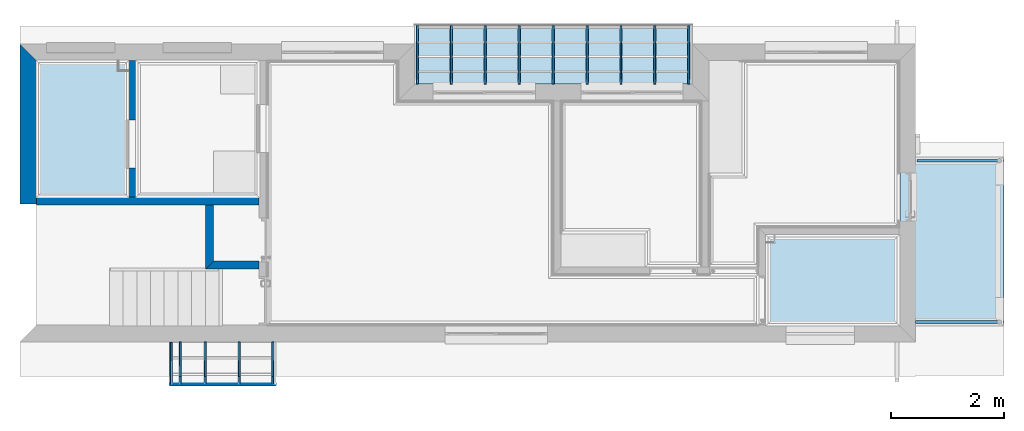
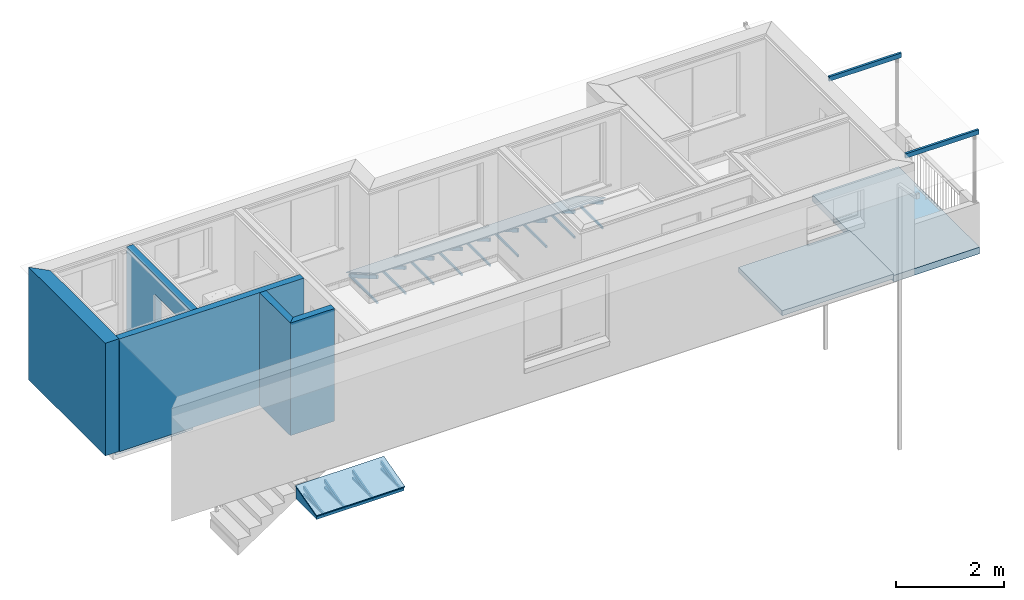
# One storey, part 1 of 18: 31 slabs, 6 walls, 3 beams.
"""IFC2X3 building model written with IfcOpenShell, lengths in millimetres."""

from ifc_helpers import new_model, entity, si_unit, converted_unit, money_unit, direction, frame, origin_with_axes, place, context, subcontext, project, spatial, polyline, outline, extrude, clip, halfspace, faceted_brep, source, transform, mapped, material, material_list, layer, layer_set, layer_usage, type_object, element, save


model = new_model("IFC2X3")

# Units and contexts
model_context = context("Model", 3, precision=1e-05, world=origin_with_axes(), true_north=direction((0.0, 1.0)))
body_context = subcontext(model_context, "Body", "Model", "MODEL_VIEW")
ifc_project = project(units=[si_unit("LENGTHUNIT", "METRE", prefix="MILLI"), si_unit("AREAUNIT", "SQUARE_METRE"), si_unit("VOLUMEUNIT", "CUBIC_METRE"), converted_unit("PLANEANGLEUNIT", "DEGREE", entity("IfcPlaneAngleMeasure", 0.0174532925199), si_unit("PLANEANGLEUNIT", "RADIAN"), dimensions=[0, 0, 0, 0, 0, 0, 0]), si_unit("SOLIDANGLEUNIT", "STERADIAN"), money_unit("AUD"), si_unit("TIMEUNIT", "SECOND"), si_unit("MASSUNIT", "GRAM"), si_unit("THERMODYNAMICTEMPERATUREUNIT", "DEGREE_CELSIUS"), si_unit("LUMINOUSINTENSITYUNIT", "LUMEN")], contexts=[model_context])

# Site, building, storey
site_placement = place(None, origin_with_axes())
site = spatial("IfcSite", under=ifc_project, at=site_placement, Name="Lot 1. East Hills", CompositionType="ELEMENT")
building_placement = place(site_placement, origin_with_axes())
building = spatial("IfcBuilding", under=site, at=building_placement, Name="Proposed Units 7 & 8", CompositionType="ELEMENT")
storey_placement = place(building_placement, frame((0.0, 0.0, 5859.0), z_axis=(0.0, 0.0, 1.0), x_axis=(1.0, 0.0, 0.0)))
storey = spatial("IfcBuildingStorey", under=building, at=storey_placement, Name="Level 1", CompositionType="ELEMENT", Elevation=5859.0)

# Beams
ifc_material_1 = material(Name="50 %")
beam_type_1 = type_object("IfcBeamType", Name="Purlin 12", PredefinedType="NOTDEFINED")
shared_shape_1 = source(origin_with_axes(), body_context, "Body", "Brep", [
    faceted_brep([(0.0, -7.5, 105.0), (-1865.0, -7.5, 105.0), (-1865.0, -7.5, 0.0), (0.0, -7.5, 0.0), (0.0, 7.5, 105.0), (-1865.0, 7.5, 105.0), (-1865.0, 7.5, 0.0), (0.0, 7.5, 0.0)], [[[0, 1, 2, 3]], [[4, 5, 1, 0]], [[1, 5, 6, 2]], [[3, 2, 6, 7]], [[0, 3, 7, 4]], [[7, 6, 5, 4]]]),
])
beam_1_placement = place(storey_placement, frame((2657.41720971, -751.424784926, -427.675500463), z_axis=(0.0, 0.0, 1.0), x_axis=(-1.0, 0.0, 0.0)))
element("IfcBeam", 1, at=beam_1_placement, inside=storey, type_object=beam_type_1, material=ifc_material_1, Name="ROOF_BAT_29 - Purlin 12 - object -", ObjectType="Purlin 12", context=body_context, shape_type="MappedRepresentation", body=[
    mapped(shared_shape_1, transform((0.0, 0.0, 0.0))),
])
ifc_material_2 = material(Name="Concrete Reinforced")
beam_type_2 = type_object("IfcBeamType", Name="Concrete Reinforced 50 x 104", PredefinedType="NOTDEFINED")
beam_2_placement = place(storey_placement, frame((17394.0103075, 3200.22809026, 2536.0), z_axis=(0.0, 0.0, 1.0), x_axis=(0.0, 1.0, 0.0)))
element("IfcBeam", 2, at=beam_2_placement, inside=storey, type_object=beam_type_2, material=ifc_material_2, Name="FOOTING TYPE B - Concrete Reinforced - Beam*****TYPE*****TYPE*****B*****TYPE B*****FOOTING TYPE*****FOOTING", ObjectType="Concrete Reinforced 50 x 104", context=body_context, shape_type="Brep", body=[
    faceted_brep([(25.0, 1544.01030755, -104.0), (25.0, 1544.01030755, 0.0), (25.0, 3.33085941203, 0.0), (25.0, 3.33085941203, -104.0), (-25.0, 1544.01030755, 0.0), (-25.0, 1544.01030755, -104.0), (-25.0, 3.33085941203, 0.0), (-25.0, 3.33085941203, -104.0)], [[[0, 1, 2, 3]], [[4, 1, 0, 5]], [[1, 4, 6, 2]], [[3, 2, 6, 7]], [[5, 0, 3, 7]], [[4, 5, 7, 6]]]),
])
beam_3_placement = place(storey_placement, frame((17394.1513236, 350.000032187, 2536.0), z_axis=(0.0, 0.0, 1.0), x_axis=(0.0, 1.0, 0.0)))
element("IfcBeam", 3, at=beam_3_placement, inside=storey, type_object=beam_type_2, material=ifc_material_2, Name="FOOTING TYPE B - Concrete Reinforced - Beam*****TYPE*****TYPE*****B*****TYPE B*****FOOTING TYPE*****FOOTING", ObjectType="Concrete Reinforced 50 x 104", context=body_context, shape_type="Brep", body=[
    faceted_brep([(-25.0, 3.47187543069, 0.0), (25.0, 3.47187543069, 0.0), (25.0, 1564.15132357, 0.0), (-25.0, 1564.15132357, 0.0), (25.0, 3.47187543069, -103.797689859), (-25.0, 3.47187543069, -103.797689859), (25.0, 1564.15132357, -103.797689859), (-25.0, 1564.15132357, -103.797689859)], [[[0, 1, 2, 3]], [[4, 1, 0, 5]], [[1, 4, 6, 2]], [[7, 3, 2, 6]], [[5, 0, 3, 7]], [[4, 5, 7, 6]]]),
])

# Slabs
ifc_layer_1 = layer(ifc_material_2, 110.0, ventilated="UNKNOWN")
ifc_layer_set_1 = layer_set([ifc_layer_1], Name="Concrete Reinforced 110")
ifc_layer_usage_1 = layer_usage(ifc_layer_set_1, "AXIS3", "NEGATIVE", 110.0)
slab_type_1 = type_object("IfcSlabType", Name="Concrete Reinforced 110", PredefinedType="FLOOR")
slab_1_placement = place(storey_placement, frame((279.999999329, 4983.00000067, -40.0), z_axis=(0.0, 0.0, 1.0), x_axis=(1.0, 0.0, 0.0)))
element("IfcSlab", 4, at=slab_1_placement, inside=storey, type_object=slab_type_1, material=ifc_layer_usage_1, Name="Slab002 Concrete Reinforced Slab", PredefinedType="FLOOR", context=body_context, shape_type="SweptSolid", body=[
    extrude(outline(polyline([(0.0, 0.0), (0.0, -2440.0), (1650.00000067, -2440.0), (1650.00000067, 0.0), (0.0, 0.0)])), frame((0.0, 0.0, -110.0), z_axis=(0.0, 0.0, 1.0), x_axis=(1.0, 0.0, 0.0)), (0.0, 0.0, 1.0), 110.0),
])
ifc_layer_usage_2 = layer_usage(ifc_layer_set_1, "AXIS3", "NEGATIVE", 110.0)
slab_2_placement = place(storey_placement, frame((13175.0000004, 1897.99999873, -40.0), z_axis=(0.0, 0.0, 1.0), x_axis=(1.0, 0.0, 0.0)))
element("IfcSlab", 5, at=slab_2_placement, inside=storey, type_object=slab_type_1, material=ifc_layer_usage_2, Name="Slab002 Concrete Reinforced Slab", PredefinedType="FLOOR", context=body_context, shape_type="SweptSolid", body=[
    extrude(outline(polyline([(0.0, 0.0), (0.0, -1620.01525367), (2375.00000032, -1620.01525367), (2375.00000032, 0.0), (0.0, 0.0)])), frame((0.0, 0.0, -110.0), z_axis=(0.0, 0.0, 1.0), x_axis=(1.0, 0.0, 0.0)), (0.0, 0.0, 1.0), 110.0),
])
slab_type_2 = type_object("IfcSlabType", Name="Purlin 12", PredefinedType="NOTDEFINED")
shared_shape_2 = source(origin_with_axes(), body_context, "Body", "Brep", [
    faceted_brep([(0.0, -17.5, 50.0), (0.0, -17.5, 0.0), (1035.73573739, -17.5, 0.0), (1035.73573739, -17.5, 50.0), (0.0, 17.5, 50.0), (0.0, 17.5, 0.0), (1035.73573739, 17.5, 0.0), (1035.73573739, 17.5, 50.0)], [[[0, 1, 2, 3]], [[0, 4, 5, 1]], [[1, 5, 6, 2]], [[3, 2, 6, 7]], [[4, 0, 3, 7]], [[5, 4, 7, 6]]]),
])
for number, where, z_axis, x_axis, name in (
    (6, (7622.5, 4553.0, -318.797689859), (0.0, 0.0, 1.0), (0.0, 1.0, 0.0), "ROOF_BAT_27 - Purlin 12 - object -"),
    (7, (8222.5, 4553.0, -318.797689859), (0.0, 0.0, 1.0), (0.0, 1.0, 0.0), "ROOF_BAT_26 - Purlin 12 - object -"),
    (8, (8822.5, 4553.0, -318.797689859), (0.0, 0.0, 1.0), (0.0, 1.0, 0.0), "ROOF_BAT_25 - Purlin 12 - object -"),
    (9, (9422.5, 4553.0, -318.797689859), (0.0, 0.0, 1.0), (0.0, 1.0, 0.0), "ROOF_BAT_24 - Purlin 12 - object -"),
    (10, (10022.5, 4553.0, -318.797689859), (0.0, 0.0, 1.0), (0.0, 1.0, 0.0), "ROOF_BAT_23 - Purlin 12 - object -"),
    (11, (10622.5, 4553.0, -318.797689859), (0.0, 0.0, 1.0), (0.0, 1.0, 0.0), "ROOF_BAT_22 - Purlin 12 - object -"),
    (12, (11222.5, 4553.0, -318.797689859), (0.0, 0.0, 1.0), (0.0, 1.0, 0.0), "ROOF_BAT_21 - Purlin 12 - object -"),
    (13, (11822.5, 4553.0, -318.797689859), (0.0, 0.0, 1.0), (0.0, 1.0, 0.0), "ROOF_BAT_08 - Purlin 12 - object -"),
    (14, (7022.5, 4553.0, -318.797689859), (0.0, 0.0, 1.0), (0.0, 1.0, 0.0), "ROOF_BAT_27 - Purlin 12 - object -"),
):
    element("IfcSlab", number, at=place(storey_placement, frame(where, z_axis=z_axis, x_axis=x_axis)), inside=storey, type_object=slab_type_2, material=ifc_material_1, Name=name, PredefinedType="ROOF", context=body_context, shape_type="MappedRepresentation", body=[
        mapped(shared_shape_2, transform((0.0, 0.0, 0.0))),
    ])
slab_type_3 = type_object("IfcSlabType", Name="Strut 2 12", PredefinedType="NOTDEFINED")
shared_shape_3 = source(origin_with_axes(), body_context, "Body", "Brep", [
    faceted_brep([(0.0, 17.5, 0.0), (0.0, -17.5, 0.0), (-150.0, -17.5, 0.0), (-150.0, 17.5, 0.0), (-1035.73573739, 17.5, 597.982306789), (-1035.73573739, -17.5, 597.982306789), (-1035.73573739, -17.5, 511.37976641), (-1035.73573739, 17.5, 511.37976641)], [[[0, 1, 2, 3]], [[4, 5, 1, 0]], [[1, 5, 6, 2]], [[3, 2, 6, 7]], [[0, 3, 7, 4]], [[7, 6, 5, 4]]]),
])
for number, where, z_axis, x_axis, name in (
    (15, (11822.5, 5588.73573739, -268.797689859), (0.0, 0.0, 1.0), (0.0, 1.0, 0.0), "U7_FRIDGE - Strut 2 12 - object -"),
    (16, (11222.5, 5588.73573739, -268.797689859), (0.0, 0.0, 1.0), (0.0, 1.0, 0.0), "U7_FRIDGE - Strut 2 12 - object -"),
    (17, (10622.5, 5588.73573739, -268.797689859), (0.0, 0.0, 1.0), (0.0, 1.0, 0.0), "U7_FRIDGE - Strut 2 12 - object -"),
    (18, (10022.5, 5588.73573739, -268.797689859), (0.0, 0.0, 1.0), (0.0, 1.0, 0.0), "U7_FRIDGE - Strut 2 12 - object -"),
    (19, (9422.5, 5588.73573739, -268.797689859), (0.0, 0.0, 1.0), (0.0, 1.0, 0.0), "U7_FRIDGE - Strut 2 12 - object -"),
    (20, (8822.5, 5588.73573739, -268.797689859), (0.0, 0.0, 1.0), (0.0, 1.0, 0.0), "U7_FRIDGE - Strut 2 12 - object -"),
    (21, (8222.5, 5588.73573739, -268.797689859), (0.0, 0.0, 1.0), (0.0, 1.0, 0.0), "U7_FRIDGE - Strut 2 12 - object -"),
    (22, (7622.5, 5588.73573739, -268.797689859), (0.0, 0.0, 1.0), (0.0, 1.0, 0.0), "U7_FRIDGE - Strut 2 12 - object -"),
    (23, (7022.5, 5588.73573739, -268.797689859), (0.0, 0.0, 1.0), (0.0, 1.0, 0.0), "U7_FRIDGE - Strut 2 12 - object -"),
):
    element("IfcSlab", number, at=place(storey_placement, frame(where, z_axis=z_axis, x_axis=x_axis)), inside=storey, type_object=slab_type_3, material=ifc_material_1, Name=name, PredefinedType="ROOF", context=body_context, shape_type="MappedRepresentation", body=[
        mapped(shared_shape_3, transform((0.0, 0.0, 0.0))),
    ])
shared_shape_4 = source(origin_with_axes(), body_context, "Body", "Brep", [
    faceted_brep([(0.0, -17.5, 50.0), (-741.626512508, -17.5, 50.0), (-741.626512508, -17.5, 0.0), (0.0, -17.5, 0.0), (0.0, 17.5, 50.0), (-741.626512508, 17.5, 50.0), (-741.626512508, 17.5, 0.0), (0.0, 17.5, 0.0)], [[[0, 1, 2, 3]], [[4, 5, 1, 0]], [[1, 5, 6, 2]], [[3, 2, 6, 7]], [[0, 3, 7, 4]], [[7, 6, 5, 4]]]),
])
slab_3_placement = place(storey_placement, frame((4470.91720971, -2.00273477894, -404.797689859), z_axis=(0.0, 0.0, 1.0), x_axis=(0.0, 1.0, 0.0)))
element("IfcSlab", 24, at=slab_3_placement, inside=storey, type_object=slab_type_2, material=ifc_material_1, Name="ROOF_BAT_25 - Purlin 12 - object -", PredefinedType="ROOF", context=body_context, shape_type="MappedRepresentation", body=[
    mapped(shared_shape_4, transform((0.0, 0.0, 0.0))),
])
shared_shape_5 = source(origin_with_axes(), body_context, "Body", "Brep", [
    faceted_brep([(0.0, -17.5, 50.0), (-746.077104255, -17.5, 50.0), (-746.077104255, -17.5, 0.0), (0.0, -17.5, 0.0), (0.0, 17.5, 50.0), (-746.077104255, 17.5, 50.0), (-746.077104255, 17.5, 0.0), (0.0, 17.5, 0.0)], [[[0, 1, 2, 3]], [[4, 5, 1, 0]], [[1, 5, 6, 2]], [[3, 2, 6, 7]], [[0, 3, 7, 4]], [[7, 6, 5, 4]]]),
])
slab_4_placement = place(storey_placement, frame((3270.91720971, 1.50263977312, -404.797689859), z_axis=(0.0, 0.0, 1.0), x_axis=(0.0, 1.0, 0.0)))
element("IfcSlab", 25, at=slab_4_placement, inside=storey, type_object=slab_type_2, material=ifc_material_1, Name="ROOF_BAT_27 - Purlin 12 - object -", PredefinedType="ROOF", context=body_context, shape_type="MappedRepresentation", body=[
    mapped(shared_shape_5, transform((0.0, 0.0, 0.0))),
])
shared_shape_6 = source(origin_with_axes(), body_context, "Body", "Brep", [
    faceted_brep([(0.0, 17.5, 0.0), (289.777747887, 17.5, 0.0), (289.777747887, -17.5, 0.0), (0.0, -17.5, 0.0), (612.643593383, 17.5, 164.157356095), (612.643593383, 17.5, 86.5116425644), (612.643593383, -17.5, 86.5116425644), (612.643593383, -17.5, 164.157356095)], [[[0, 1, 2, 3]], [[0, 4, 5, 1]], [[1, 5, 6, 2]], [[3, 2, 6, 7]], [[4, 0, 3, 7]], [[5, 4, 7, 6]]]),
])
for number, where, z_axis, x_axis, name in (
    (26, (3870.91720971, -614.643593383, -354.797689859), (0.0, 0.0, 1.0), (0.0, 1.0, 0.0), "U7_FRIDGE - Strut 2 12 - object -"),
    (27, (3270.91720971, -614.643593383, -354.797689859), (0.0, 0.0, 1.0), (0.0, 1.0, 0.0), "U7_FRIDGE - Strut 2 12 - object -"),
    (28, (2830.31206946, -611.14095361, -354.797689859), (0.0, 0.0, 1.0), (0.0, 1.0, 0.0), "U7_FRIDGE - Strut 2 12 - object -"),
    (29, (4470.91720971, -614.643593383, -354.797689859), (0.0, 0.0, 1.0), (0.0, 1.0, 0.0), "U7_FRIDGE - Strut 2 12 - object -"),
):
    element("IfcSlab", number, at=place(storey_placement, frame(where, z_axis=z_axis, x_axis=x_axis)), inside=storey, type_object=slab_type_3, material=ifc_material_1, Name=name, PredefinedType="ROOF", context=body_context, shape_type="MappedRepresentation", body=[
        mapped(shared_shape_6, transform((0.0, 0.0, 0.0))),
    ])
shared_shape_7 = source(origin_with_axes(), body_context, "Body", "Brep", [
    faceted_brep([(0.0, -17.5, 50.0), (-752.927424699, -17.5, 50.0), (-752.927424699, -17.5, 0.0), (0.0, -17.5, 0.0), (0.0, 17.5, 50.0), (-752.927424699, 17.5, 50.0), (-752.927424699, 17.5, 0.0), (0.0, 17.5, 0.0)], [[[0, 1, 2, 3]], [[4, 5, 1, 0]], [[1, 5, 6, 2]], [[3, 2, 6, 7]], [[0, 3, 7, 4]], [[7, 6, 5, 4]]]),
])
slab_5_placement = place(storey_placement, frame((2830.31206946, 1.50263977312, -404.797689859), z_axis=(0.0, 0.0, 1.0), x_axis=(0.0, 1.0, 0.0)))
element("IfcSlab", 30, at=slab_5_placement, inside=storey, type_object=slab_type_2, material=ifc_material_1, Name="ROOF_BAT_27 - Purlin 12 - object -", PredefinedType="ROOF", context=body_context, shape_type="MappedRepresentation", body=[
    mapped(shared_shape_7, transform((0.0, 0.0, 0.0))),
])
shared_shape_8 = source(origin_with_axes(), body_context, "Body", "Brep", [
    faceted_brep([(0.0, -17.5, 50.0), (-752.927424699, -17.5, 50.0), (-752.927424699, -17.5, 0.0), (0.0, -17.5, 0.0), (0.0, 17.5, 50.0), (-752.927424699, 17.5, 50.0), (-752.927424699, 17.5, 0.0), (0.0, 17.5, 0.0)], [[[0, 1, 2, 3]], [[4, 5, 1, 0]], [[1, 5, 6, 2]], [[3, 2, 6, 7]], [[0, 3, 7, 4]], [[7, 6, 5, 4]]]),
])
slab_6_placement = place(storey_placement, frame((3870.91720971, 1.50263977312, -404.797689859), z_axis=(0.0, 0.0, 1.0), x_axis=(0.0, 1.0, 0.0)))
element("IfcSlab", 31, at=slab_6_placement, inside=storey, type_object=slab_type_2, material=ifc_material_1, Name="ROOF_BAT_27 - Purlin 12 - object -", PredefinedType="ROOF", context=body_context, shape_type="MappedRepresentation", body=[
    mapped(shared_shape_8, transform((0.0, 0.0, 0.0))),
])
ifc_layer_2 = layer(ifc_material_2, 150.0, ventilated="UNKNOWN")
ifc_layer_set_2 = layer_set([ifc_layer_2], Name="Concrete Reinforced 150")
ifc_layer_usage_3 = layer_usage(ifc_layer_set_2, "AXIS3", "NEGATIVE", 150.0)
slab_type_4 = type_object("IfcSlabType", Name="Concrete Reinforced 150", PredefinedType="FLOOR")
slab_7_placement = place(storey_placement, frame((15550.4067797, 280.000078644, -75.0), z_axis=(0.0, 0.0, 1.0), x_axis=(1.0, 0.0, 0.0)))
element("IfcSlab", 32, at=slab_7_placement, inside=storey, type_object=slab_type_4, material=ifc_layer_usage_3, Name="Slab002 Concrete Reinforced Slab", PredefinedType="FLOOR", context=body_context, shape_type="SweptSolid", body=[
    extrude(outline(polyline([(0.0, 0.0), (1829.59322025, -4.64572480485e-05), (1829.59322025, 2989.99994934), (-0.406779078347, 2989.99994934), (0.0, 0.0)])), frame((0.0, 0.0, -150.0), z_axis=(0.0, 0.0, 1.0), x_axis=(1.0, 0.0, 0.0)), (0.0, 0.0, 1.0), 150.0),
])
ifc_material_3 = material(Name="Gravel")
ifc_layer_3 = layer(ifc_material_3, 21.6506350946, ventilated="UNKNOWN")
ifc_layer_set_3 = layer_set([ifc_layer_3], Name="Gravel 21.6506")
ifc_layer_usage_4 = layer_usage(ifc_layer_set_3, "AXIS3", "NEGATIVE", 21.6506350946)
slab_type_5 = type_object("IfcSlabType", Name="Gravel 22", PredefinedType="ROOF")
slab_8_placement = place(storey_placement, frame((6975.0, 5576.88460832, -233.5), z_axis=(0.0, 0.0, 1.0), x_axis=(1.0, 0.0, 0.0)))
element("IfcSlab", 33, at=slab_8_placement, inside=storey, type_object=slab_type_5, material=ifc_layer_usage_4, Name="Roof002 Gravel  Roof", PredefinedType="ROOF", context=body_context, shape_type="SweptSolid", body=[
    extrude(outline(polyline([(0.0, 59.5184654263), (0.0, -1182.28010846), (4905.00000067, -1182.28010846), (4905.00000067, 59.5184654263), (0.0, 59.5184654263)])), frame((0.0, 0.0, 0.0), z_axis=(0.0, 0.5, 0.866025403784), x_axis=(1.0, 0.0, 0.0)), (0.0, -0.5, 0.866025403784), 25.0),
])
ifc_layer_usage_5 = layer_usage(ifc_layer_set_3, "AXIS3", "NEGATIVE", 21.6506350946)
slab_9_placement = place(storey_placement, frame((7562.41721038, -602.792464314, -297.085613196), z_axis=(0.0, 0.0, 1.0), x_axis=(-1.0, 0.0, 0.0)))
element("IfcSlab", 34, at=slab_9_placement, inside=storey, type_object=slab_type_5, material=ifc_layer_usage_5, Name="Roof002 Gravel  Roof", PredefinedType="ROOF", context=body_context, shape_type="SweptSolid", body=[
    extrude(outline(polyline([(4916.7257223, 185.878147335), (3033.78847585, 185.878147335), (3033.78847585, -621.98114937), (4916.7257223, -621.983310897), (4916.7257223, 185.878147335)])), frame((0.0, 0.0, 0.0), z_axis=(0.0, 0.258819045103, 0.965925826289), x_axis=(1.0, 0.0, 0.0)), (0.0, -0.258819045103, 0.965925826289), 22.4143868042),
])

# Walls
ifc_material_4 = material(Name="Brickwork Faced")
ifc_material_5 = material(Name="Cavity")
ifc_material_6 = material(Name="Cement Render")
ifc_material_list_1 = material_list([ifc_material_4, ifc_material_5, ifc_material_4, ifc_material_6])
wall_type_1 = type_object("IfcWallType", Name="Cavity wall 280 295", PredefinedType="NOTDEFINED")
wall_1_placement = place(storey_placement, frame((0.0, 5263.0, 0.0), z_axis=(0.0, 0.0, 1.0), x_axis=(0.0, -1.0, 0.0)))
element("IfcWall", 35, at=wall_1_placement, inside=storey, type_object=wall_type_1, material=ifc_material_list_1, Name="EXT-WALL-100 Cavity wall 280 Wall", context=body_context, shape_type="Brep", body=[
    faceted_brep([(294.999998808, 294.999998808, 0.0), (294.999998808, 294.999998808, 2536.0), (2829.99999873, 294.999998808, 2536.0), (2829.99999873, 294.999998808, 0.0), (0.0, 0.0, 2536.0), (0.0, 0.0, 0.0), (2829.99999873, 0.0, 2536.0), (2829.99999873, 0.0, 0.0)], [[[0, 1, 2, 3]], [[4, 1, 0, 5]], [[1, 4, 6, 2]], [[3, 2, 6, 7]], [[5, 0, 3, 7]], [[4, 5, 7, 6]]]),
])
ifc_material_list_2 = material_list([ifc_material_6, ifc_material_4, ifc_material_6])
wall_type_2 = type_object("IfcWallType", Name="Solid Brick Render Both Side 140 140", PredefinedType="NOTDEFINED")
wall_2_placement = place(storey_placement, frame((3279.99999709, 1287.99999881, 0.0), z_axis=(0.0, 0.0, 1.0), x_axis=(1.0, 0.0, 0.0)))
element("IfcWall", 36, at=wall_2_placement, inside=storey, type_object=wall_type_2, material=ifc_material_list_2, Name="Wall007 Solid Brick Render Both Side 140 Wall", context=body_context, shape_type="Brep", body=[
    faceted_brep([(139.999999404, 139.999999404, 0.0), (139.999999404, 139.999999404, 2536.0), (945.003479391, 139.999999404, 2536.0), (945.003479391, 139.999999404, 0.0), (0.0, 0.0, 2536.0), (0.0, 0.0, 0.0), (945.003479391, 0.0, 2536.0), (945.003479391, 0.0, 0.0)], [[[0, 1, 2, 3]], [[4, 1, 0, 5]], [[1, 4, 6, 2]], [[3, 2, 6, 7]], [[5, 0, 3, 7]], [[4, 5, 7, 6]]]),
])
wall_3_placement = place(storey_placement, frame((3279.99999709, 2558.03529883, 0.0), z_axis=(0.0, 0.0, 1.0), x_axis=(0.0, -1.0, 0.0)))
element("IfcWall", 37, at=wall_3_placement, inside=storey, type_object=wall_type_2, material=ifc_material_list_2, Name="Wall006 Solid Brick Render Both Side 140 Wall", context=body_context, shape_type="Brep", body=[
    faceted_brep([(1270.03530002, 0.0, 2536.0), (1130.03530061, 139.999999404, 2536.0), (139.999999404, 139.999999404, 2536.0), (139.999999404, 0.0, 2536.0), (1270.03530002, 0.0, 0.0), (1130.03530061, 139.999999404, 0.0), (139.999999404, 139.999999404, 0.0), (139.999999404, 0.0, 0.0)], [[[0, 1, 2, 3]], [[1, 0, 4, 5]], [[1, 5, 6, 2]], [[3, 2, 6, 7]], [[4, 0, 3, 7]], [[5, 4, 7, 6]]]),
])
wall_4_placement = place(storey_placement, frame((1915.0, 5263.0, 0.0), z_axis=(0.0, 0.0, 1.0), x_axis=(0.0, -1.0, 0.0)))
element("IfcWall", 38, at=wall_4_placement, inside=storey, type_object=wall_type_2, material=ifc_material_list_2, Name="Wall006 Solid Brick Render Both Side 140 Wall", context=body_context, shape_type="Brep", body=[
    faceted_brep([(2194.99999933, 139.999999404, 0.0), (2194.99999933, 139.999999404, 2067.0), (1344.99999933, 139.999999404, 2067.0), (1344.99999933, 139.999999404, 0.0), (294.999998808, 139.999999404, 0.0), (294.999998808, 139.999999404, 2507.0), (2704.96470117, 139.999999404, 2507.0), (2704.96470117, 139.999999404, 0.0), (2194.99999933, 0.0, 0.0), (2194.99999933, 0.0, 2067.0), (1344.99999933, 0.0, 2067.0), (1344.99999933, 0.0, 0.0), (294.999998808, 0.0, 0.0), (294.999998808, 0.0, 2507.0), (2704.96470117, 0.0, 2507.0), (2704.96470117, 0.0, 0.0)], [[[0, 1, 2, 3, 4, 5, 6, 7]], [[1, 0, 8, 9]], [[2, 1, 9, 10]], [[3, 2, 10, 11]], [[3, 11, 12, 4]], [[12, 13, 5, 4]], [[6, 5, 13, 14]], [[15, 7, 6, 14]], [[8, 0, 7, 15]], [[9, 8, 15, 14, 13, 12, 11, 10]]]),
])
wall_5_placement = place(storey_placement, frame((4225.00441391, 2558.03529883, 0.0), z_axis=(0.0, 0.0, 1.0), x_axis=(-1.0, 0.0, 0.0)))
element("IfcWall", 39, at=wall_5_placement, inside=storey, type_object=wall_type_2, material=ifc_material_list_2, Name="Wall006 Solid Brick Render Both Side 140 Wall", context=body_context, shape_type="Brep", body=[
    faceted_brep([(3930.0044151, 0.0, 0.0), (3930.0044151, 0.0, 2536.0), (0.0, 0.0, 2536.0), (0.0, 0.0, 0.0), (3930.0044151, 139.999999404, 2536.0), (3930.0044151, 139.999999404, 0.0), (0.0, 139.999999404, 2536.0), (0.0, 139.999999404, 0.0)], [[[0, 1, 2, 3]], [[4, 1, 0, 5]], [[1, 4, 6, 2]], [[6, 7, 3, 2]], [[5, 0, 3, 7]], [[4, 5, 7, 6]]]),
])
ifc_material_7 = material(Name="Empty Fill")
ifc_layer_4 = layer(ifc_material_7, 35.0, ventilated="UNKNOWN")
ifc_layer_set_4 = layer_set([ifc_layer_4], Name="Empty Fill 35")
ifc_layer_usage_6 = layer_usage(ifc_layer_set_4, "AXIS2", "NEGATIVE", 0.0)
wall_type_3 = type_object("IfcWallType", Name="Empty Fill 35", PredefinedType="NOTDEFINED")
wall_6_placement = place(storey_placement, frame((2657.41720971, -751.424784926, -417.797689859), z_axis=(0.0, 0.0, 1.0), x_axis=(0.0, 1.0, 0.0)))
element("IfcWallStandardCase", 40, at=wall_6_placement, inside=storey, type_object=wall_type_3, material=ifc_layer_usage_6, Name="Wall006 Empty Fill Wall", context=body_context, shape_type="Clipping", body=[
    clip(extrude(outline(polyline([(0.0, -35.0), (745.919410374, -35.0), (745.919410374, 0.0), (0.0, 0.0), (0.0, -35.0)])), origin_with_axes(), (0.0, 0.0, 1.0), 714.437744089), halfspace(frame((-20.2215415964, 0.0, 75.4678206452), z_axis=(0.258819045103, 0.0, -0.965925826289), x_axis=(0.965925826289, 0.0, 0.258819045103)), True)),
])

save(model, "model.ifc")
